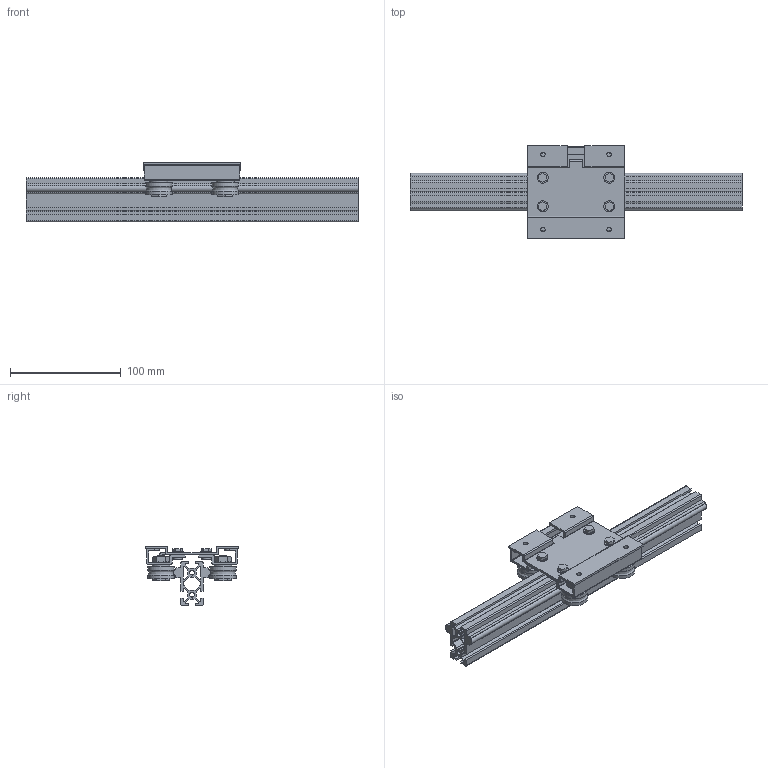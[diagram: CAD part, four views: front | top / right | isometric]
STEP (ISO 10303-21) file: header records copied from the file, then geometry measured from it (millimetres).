
FILE_DESCRIPTION((''),'2;1');
FILE_NAME('C:\Documents and Settings\土屋\My Documents\土屋移動用フォルダ\製品 (図面)\LSダウンロード用図面\新型キャリッジ\縦型LS\step形式\LS2040B.stp','2017-08-02T09:32:03',('y'),(''),'Autodesk Inventor 11','Autodesk Inventor 11','');
FILE_SCHEMA(('AUTOMOTIVE_DESIGN { 1 0 10303 214 1 1 1 1 }'));
Length unit declared in the file: millimetre
Products named in the file (3): LS2040B; LS2040Bレール; LS2040Bキャリッジ
Assembly tree (2 placements, depth 2):
  LS2040B
    LS2040Bレール
    LS2040Bキャリッジ
Bounding box: 300 x 84 x 54 mm (x, y, z)
Volume: 197804.2 mm3; surface area: 147790.6 mm2
Topology: 6 solids, 6 shells, 423 faces, 1096 edges, 710 vertices
Faces by surface type: plane 269, cylinder 82, cone 60, bspline 12
Full cylindrical faces by diameter (mm): 4.2 x2, 8 x8, 10 x4, 16 x4, 24 x8
Entity records: 12884 total; most frequent: CARTESIAN_POINT 2808, ORIENTED_EDGE 2068, DIRECTION 2010, EDGE_CURVE 1034, VERTEX_POINT 698, VECTOR 698, LINE 698, AXIS2_PLACEMENT_3D 656
